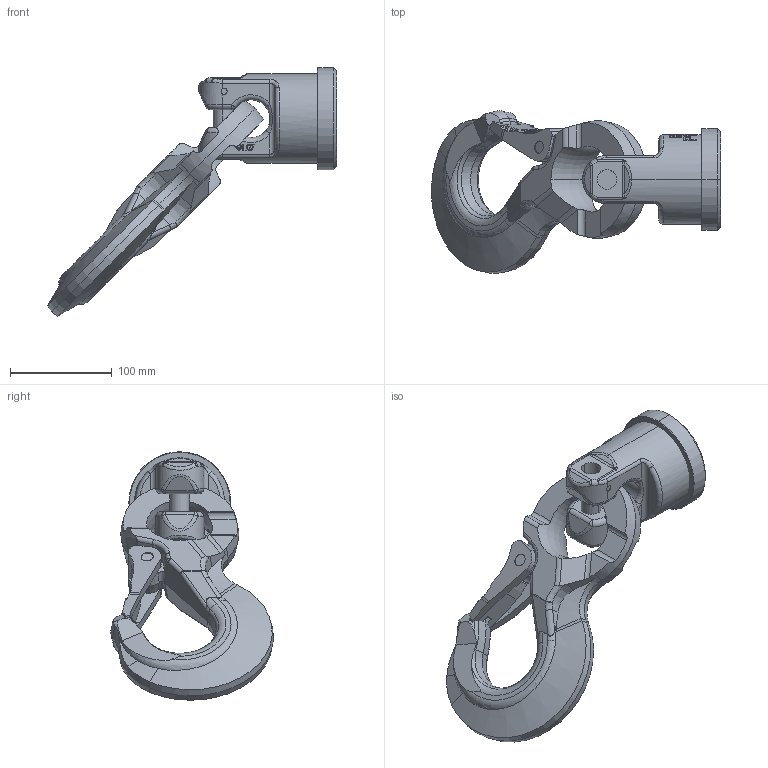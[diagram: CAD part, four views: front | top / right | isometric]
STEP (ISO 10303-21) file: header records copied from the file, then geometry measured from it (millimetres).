
FILE_DESCRIPTION((''),'2;1');
FILE_NAME('001-M31342-P-40_ASM','2018-04-26T',('Anja.Joas'),(''),'PRO/ENGINEER BY PARAMETRIC TECHNOLOGY CORPORATION, 2011490','PRO/ENGINEER BY PARAMETRIC TECHNOLOGY CORPORATION, 2011490','');
FILE_SCHEMA(('CONFIG_CONTROL_DESIGN'));
Length unit declared in the file: millimetre
Products named in the file (6): 001-M31342-P-20; 001-M31342-P-50; 001-M31476-001; 001-M31477-001; 001-M31476-002_ASM; 001-M31342-P-40_ASM
Assembly tree (5 placements, depth 3):
  001-M31342-P-40_ASM
    001-M31342-P-20
    001-M31342-P-50
    001-M31476-002_ASM
      001-M31476-001
      001-M31477-001
Bounding box: 284.05 x 159.73 x 244.05 mm (x, y, z)
Volume: 1295025.9 mm3; surface area: 158816.4 mm2
Topology: 4 solids, 4 shells, 777 faces, 2101 edges, 1338 vertices
Faces by surface type: plane 484, cylinder 121, bspline 60, sphere 42, cone 38, torus 32
Entity records: 28752 total; most frequent: CARTESIAN_POINT 10225, ORIENTED_EDGE 4146, DIRECTION 3393, EDGE_CURVE 2073, VERTEX_POINT 1338, AXIS2_PLACEMENT_3D 1154, VECTOR 1085, LINE 1085
